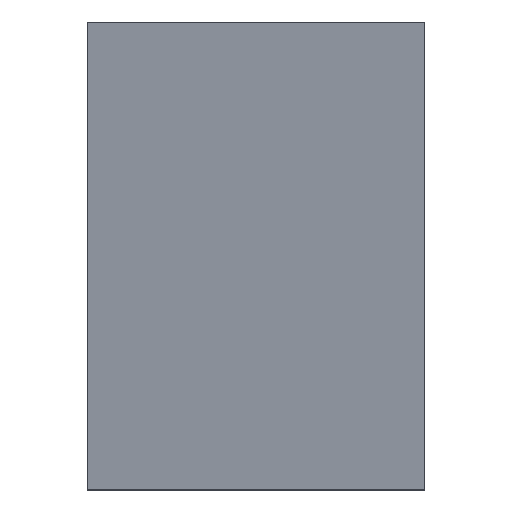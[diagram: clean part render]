
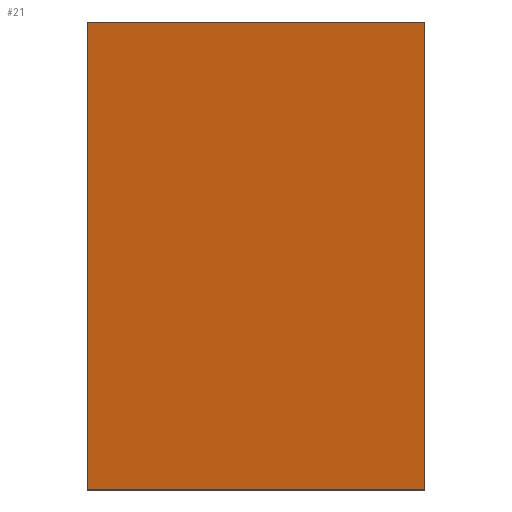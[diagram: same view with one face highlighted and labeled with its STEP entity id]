
A CAD part, front view. The second image highlights one B-rep face of the part: STEP entity #21.
In plain terms, the highlighted planar face has unit normal (0, -0.987, -0.162).
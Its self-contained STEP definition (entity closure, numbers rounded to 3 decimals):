
#21=ADVANCED_FACE('',(#28),#112,.T.);
#28=FACE_OUTER_BOUND('',#35,.T.);
#35=EDGE_LOOP('',(#62,#63,#64,#65));
#62=ORIENTED_EDGE('',*,*,#75,.T.);
#63=ORIENTED_EDGE('',*,*,#77,.F.);
#64=ORIENTED_EDGE('',*,*,#76,.T.);
#65=ORIENTED_EDGE('',*,*,#74,.F.);
#74=EDGE_CURVE('',#102,#103,#89,.T.);
#75=EDGE_CURVE('',#102,#104,#90,.T.);
#76=EDGE_CURVE('',#105,#103,#91,.T.);
#77=EDGE_CURVE('',#105,#104,#92,.T.);
#89=B_SPLINE_CURVE_WITH_KNOTS('',1,(#188,#189),.UNSPECIFIED.,.F.,.F.,(2,
2),(-526.971,-0.272),.UNSPECIFIED.);
#90=B_SPLINE_CURVE_WITH_KNOTS('',1,(#190,#191),.UNSPECIFIED.,.F.,.F.,(2,
2),(-800.,0.),.UNSPECIFIED.);
#91=B_SPLINE_CURVE_WITH_KNOTS('',1,(#192,#193),.UNSPECIFIED.,.F.,.F.,(2,
2),(-1107.463,-732.463),.UNSPECIFIED.);
#92=B_SPLINE_CURVE_WITH_KNOTS('',1,(#194,#195),.UNSPECIFIED.,.F.,.F.,(2,
2),(0.272,526.971),.UNSPECIFIED.);
#102=VERTEX_POINT('',#168);
#103=VERTEX_POINT('',#169);
#104=VERTEX_POINT('',#170);
#105=VERTEX_POINT('',#171);
#112=PLANE('',#137);
#137=AXIS2_PLACEMENT_3D('',#161,#145,$);
#145=DIRECTION('',(0.,-0.987,-0.162));
#161=CARTESIAN_POINT('',(602.777,16.302,-0.047));
#168=CARTESIAN_POINT('',(572.224,-69.072,519.963));
#169=CARTESIAN_POINT('',(572.224,16.258,0.221));
#170=CARTESIAN_POINT('',(197.224,-69.072,519.963));
#171=CARTESIAN_POINT('',(197.224,16.258,0.221));
#188=CARTESIAN_POINT('',(572.224,-69.072,519.963));
#189=CARTESIAN_POINT('',(572.224,16.258,0.221));
#190=CARTESIAN_POINT('',(572.224,-69.072,519.963));
#191=CARTESIAN_POINT('',(197.224,-69.072,519.963));
#192=CARTESIAN_POINT('',(197.224,16.258,0.221));
#193=CARTESIAN_POINT('',(572.224,16.258,0.221));
#194=CARTESIAN_POINT('',(197.224,16.258,0.221));
#195=CARTESIAN_POINT('',(197.224,-69.072,519.963));
